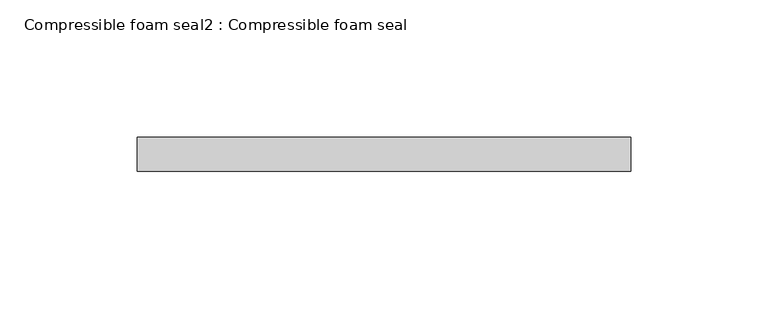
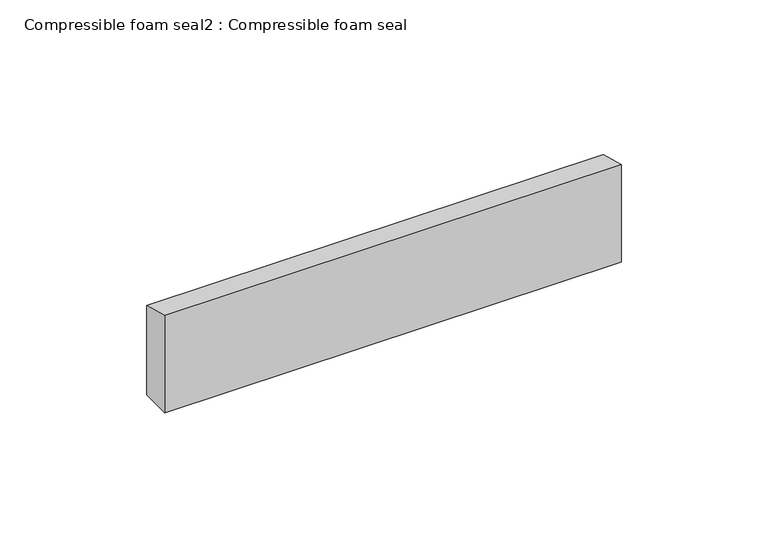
"""IFC4 building model written with IfcOpenShell, lengths in millimetres: proxy geometry, Compressible foam seal2 : Compressible foam seal."""

import ifcopenshell
import ifcopenshell.guid

model = None  # the IFC model being written
_history = None  # IfcOwnerHistory: only IFC2X3 demands one
_inside = {}  # id of a spatial element -> (the spatial element, [elements in it])
_under = {}  # id of a project, library or spatial element -> (it, [spatial elements below it])
_declared = {}  # id of a project -> (the project, [libraries it declares])
_typed = {}  # id of a type object -> (the type object, [elements of that type])
_made_of = {}  # id of a material, layer set ... -> (it, [elements and type objects made of it])


def new_model(schema):
    """Start an empty IFC model of exactly this schema.

    Asked for "IFC4X3", IfcOpenShell would pick the latest addendum, in which some entities
    have other attributes; the version numbers below select the first issue.
    IFC2X3 requires an IfcOwnerHistory on every rooted entity: one is made here for all.
    """
    global model, _history
    if schema == "IFC4X3":
        model = ifcopenshell.file(schema_version=(4, 3, 0, 0))
    else:
        model = ifcopenshell.file(schema=schema)
    _inside.clear()
    _under.clear()
    _declared.clear()
    _typed.clear()
    _made_of.clear()
    _history = None
    if model.schema == "IFC2X3":
        org = make("IfcOrganization", Name="unknown")
        user = make(
            "IfcPersonAndOrganization",
            ThePerson=make("IfcPerson", FamilyName="unknown"),
            TheOrganization=org,
        )
        app = make(
            "IfcApplication",
            ApplicationDeveloper=org,
            Version="unknown",
            ApplicationFullName="unknown",
            ApplicationIdentifier="unknown",
        )
        _history = make(
            "IfcOwnerHistory",
            OwningUser=user,
            OwningApplication=app,
            ChangeAction="ADDED",
            CreationDate=0,
        )
    return model


def make(cls, **values):
    """One entity of the class cls with the attributes given. An attribute that is None is left unset."""
    return model.create_entity(
        cls, **{name: value for name, value in values.items() if value is not None}
    )


def rooted(cls, **values):
    """An entity with a GlobalId (a new one), such as an element, a storey or a relation."""
    return make(cls, GlobalId=ifcopenshell.guid.new(), OwnerHistory=_history, **values)


def si_unit(unit_type, name, prefix=None):
    """IfcSIUnit, for example si_unit("LENGTHUNIT", "METRE", prefix="MILLI")."""
    return make("IfcSIUnit", UnitType=unit_type, Prefix=prefix, Name=name)


def assignment(units):
    """IfcUnitAssignment: the units of a project."""
    return None if units is None else make("IfcUnitAssignment", Units=units)


def point(xyz):
    """IfcCartesianPoint."""
    return None if xyz is None else make("IfcCartesianPoint", Coordinates=xyz)


def direction(xyz):
    """IfcDirection."""
    return None if xyz is None else make("IfcDirection", DirectionRatios=xyz)


def frame(location, z_axis=None, x_axis=None):
    """IfcAxis2Placement3D, a coordinate frame: its origin and axes. An axis left out is left unset."""
    return make(
        "IfcAxis2Placement3D",
        Location=point(location),
        Axis=direction(z_axis),
        RefDirection=direction(x_axis),
    )


def origin():
    """The frame at (0, 0, 0) with its axes left unset."""
    return frame((0.0, 0.0, 0.0))


def place(relative_to, where):
    """IfcLocalPlacement: puts the frame where relative to a parent placement (None: the world)."""
    return make(
        "IfcLocalPlacement", PlacementRelTo=relative_to, RelativePlacement=where
    )


def context(
    kind, dimensions, precision=None, world=None, true_north=None, identifier=None
):
    """IfcGeometricRepresentationContext, for example the 3D "Model" context."""
    return make(
        "IfcGeometricRepresentationContext",
        ContextIdentifier=identifier,
        ContextType=kind,
        CoordinateSpaceDimension=dimensions,
        Precision=precision,
        WorldCoordinateSystem=world,
        TrueNorth=true_north,
    )


def project(units=None, contexts=None):
    """IfcProject with its units and contexts."""
    return rooted(
        "IfcProject",
        Name="project",
        RepresentationContexts=contexts,
        UnitsInContext=assignment(units),
    )


def spatial(cls, under=None, at=None, **own):
    """A site, building, storey or space (cls), placed at a placement, below another one or the project."""
    s = rooted(cls, ObjectPlacement=at, **own)
    if under is not None:
        _under.setdefault(under.id(), (under, []))[1].append(s)
    return s


def polyline(points):
    """IfcPolyline through the points."""
    return make("IfcPolyline", Points=[point(p) for p in points])


def outline(outer, holes=None, kind="AREA"):
    """IfcArbitraryClosedProfileDef: a profile drawn as a closed curve; with holes, ...WithVoids."""
    if holes is None:
        return make("IfcArbitraryClosedProfileDef", ProfileType=kind, OuterCurve=outer)
    return make(
        "IfcArbitraryProfileDefWithVoids",
        ProfileType=kind,
        OuterCurve=outer,
        InnerCurves=holes,
    )


def extrude(swept, where, along, depth):
    """IfcExtrudedAreaSolid: the profile swept, set in the frame where, extruded along a direction by depth."""
    return make(
        "IfcExtrudedAreaSolid",
        SweptArea=swept,
        Position=where,
        ExtrudedDirection=direction(along),
        Depth=depth,
    )


def shape(context_of_items, identifier, shape_type, items):
    """IfcShapeRepresentation: the items that make up one representation, for example the "Body"."""
    return make(
        "IfcShapeRepresentation",
        ContextOfItems=context_of_items,
        RepresentationIdentifier=identifier,
        RepresentationType=shape_type,
        Items=items,
    )


def source(mapping_origin, context_of_items, identifier, shape_type, items):
    """IfcRepresentationMap: a shape defined once, which mapped items show again and again."""
    return make(
        "IfcRepresentationMap",
        MappingOrigin=mapping_origin,
        MappedRepresentation=shape(context_of_items, identifier, shape_type, items),
    )


def transform(
    local_origin,
    x_axis=None,
    y_axis=None,
    z_axis=None,
    scale=None,
    scale2=None,
    scale3=None,
    uniform=True,
):
    """IfcCartesianTransformationOperator3D, or its non-uniform kind. x_axis, y_axis, z_axis: its Axis1, 2, 3."""
    if uniform:
        return make(
            "IfcCartesianTransformationOperator3D",
            Axis1=direction(x_axis),
            Axis2=direction(y_axis),
            LocalOrigin=point(local_origin),
            Scale=scale,
            Axis3=direction(z_axis),
        )
    return make(
        "IfcCartesianTransformationOperator3DnonUniform",
        Axis1=direction(x_axis),
        Axis2=direction(y_axis),
        LocalOrigin=point(local_origin),
        Scale=scale,
        Axis3=direction(z_axis),
        Scale2=scale2,
        Scale3=scale3,
    )


def mapped(mapping_source, mapping_target):
    """IfcMappedItem: shows the shape of a source again, moved by a transform."""
    return make(
        "IfcMappedItem", MappingSource=mapping_source, MappingTarget=mapping_target
    )


def made_of(thing, what):
    """Note that an element or type object is made of a material, layer set ...; save() writes the relation."""
    if what is not None:
        _made_of.setdefault(what.id(), (what, []))[1].append(thing)
    return thing


def element(
    cls,
    number,
    at=None,
    inside=None,
    cuts=None,
    type_object=None,
    material=None,
    context=None,
    identifier="Body",
    shape_type=None,
    held_by="IfcProductDefinitionShape",
    body=None,
    shapes=None,
    **own,
):
    """One element of the class cls, such as IfcWall. Its Tag is "e" and its number.

    at: its placement. inside: the storey or other place that contains it. cuts: it is an
    opening in that element (IfcRelVoidsElement). A single representation is given by context,
    identifier, shape_type and body (its items); several are given by shapes. held_by: the class
    of the entity that holds the representations. save() writes the other relations.
    """
    e = rooted(cls, Tag="e%d" % number, ObjectPlacement=at, **own)
    if body is not None:
        shapes = [shape(context, identifier, shape_type, body)]
    if shapes is not None:
        e.Representation = make(held_by, Representations=shapes)
    if inside is not None:
        _inside.setdefault(inside.id(), (inside, []))[1].append(e)
    if cuts is not None:
        rooted(
            "IfcRelVoidsElement", RelatingBuildingElement=cuts, RelatedOpeningElement=e
        )
    if type_object is not None:
        _typed.setdefault(type_object.id(), (type_object, []))[1].append(e)
    return made_of(e, material)


def aggregate(whole, parts):
    """IfcRelAggregates: a whole, such as a stair, and the parts it consists of."""
    return rooted("IfcRelAggregates", RelatingObject=whole, RelatedObjects=parts)


def save(model, path):
    """Write the relations noted so far, then the file.

    IfcRelAggregates (storeys below a building ...), IfcRelContainedInSpatialStructure (elements
    in a storey), IfcRelDefinesByType, IfcRelAssociatesMaterial and IfcRelDeclares: one each for
    every whole, place, type object, material and project.
    """
    for whole, parts in _under.values():
        aggregate(whole, parts)
    for where, things in _inside.values():
        rooted(
            "IfcRelContainedInSpatialStructure",
            RelatedElements=things,
            RelatingStructure=where,
        )
    for kind, things in _typed.values():
        rooted("IfcRelDefinesByType", RelatedObjects=things, RelatingType=kind)
    for what, things in _made_of.values():
        rooted("IfcRelAssociatesMaterial", RelatedObjects=things, RelatingMaterial=what)
    for by, libraries in _declared.values():
        rooted("IfcRelDeclares", RelatingContext=by, RelatedDefinitions=libraries)
    model.write(path)


def compressible_foam_seal2_compressible_foam_seal_1ec0a699(model_context):
    return source(origin(), model_context, "Body", "SweptSolid", [
        extrude(outline(polyline([(-26537.7085055, -343.5448265), (-26525.3073445, -346.8677076), (-26525.3073445, -384.0410003), (-26537.7085055, -384.0410003), (-26537.7085055, -343.5448265)])), frame((17368.2336403, 0.0, 0.0), z_axis=(1.0, 0.0, 0.0), x_axis=(0.0, 1.0, 0.0)), (0.0, 0.0, 1.0), 179.5239223),
    ])


if __name__ == "__main__":
    model = new_model("IFC4")
    model_context = context("Model", 3, world=origin())
    ifc_project = project(units=[si_unit("LENGTHUNIT", "METRE", prefix="MILLI")], contexts=[model_context])
    site = spatial("IfcSite", under=ifc_project)
    building = spatial("IfcBuilding", under=site)
    placement = place(None, origin())
    compressible_foam_seal2_compressible_foam_seal_shape = compressible_foam_seal2_compressible_foam_seal_1ec0a699(model_context)
    element("IfcBuildingElementProxy", 1, Name="Compressible foam seal2 : Compressible foam seal", ObjectType="Compressible foam seal2 : Compressible foam seal", at=placement, inside=building, context=model_context, shape_type="MappedRepresentation", body=[
        mapped(compressible_foam_seal2_compressible_foam_seal_shape, transform((0.0, 0.0, 0.0), x_axis=(1.0, 0.0, 0.0), y_axis=(0.0, 1.0, 0.0), z_axis=(0.0, 0.0, 1.0))),
    ])
    save(model, "model.ifc")
